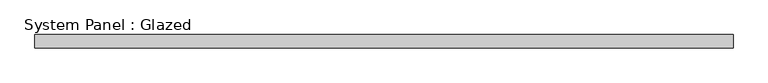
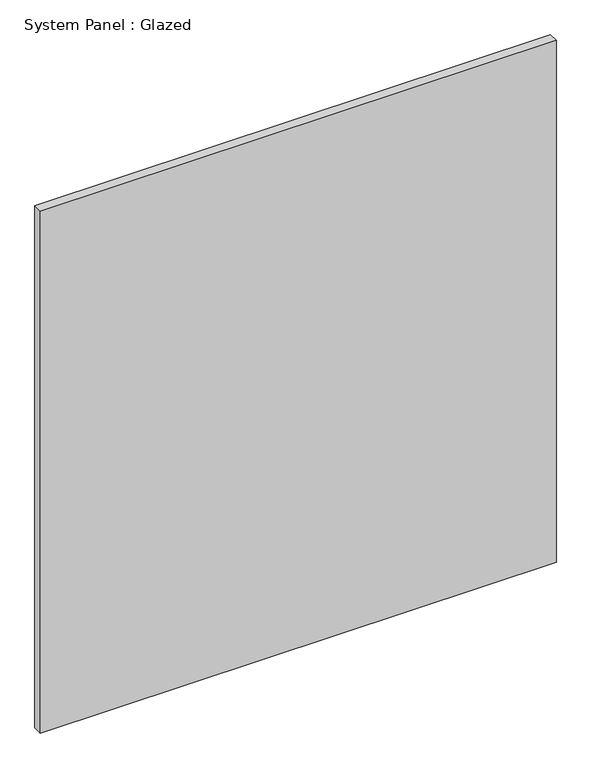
"""IFC4 building model written with IfcOpenShell, lengths in millimetres: plate geometry, System Panel : Glazed."""

from ifc_helpers import new_model, si_unit, origin, origin_with_axes, place, context, project, spatial, polyline, outline, extrude, source, transform, mapped, element, save


def system_panel_glazed_5906122b(model_context):
    return source(origin(), model_context, "Body", "SweptSolid", [
        extrude(outline(polyline([(666.1827248, 24.5), (-666.1827248, 24.5), (-666.1827248, 49.5), (666.1827248, 49.5), (666.1827248, 24.5)])), origin_with_axes(), (0.0, 0.0, 1.0), 1424.0),
    ])


if __name__ == "__main__":
    model = new_model("IFC4")
    model_context = context("Model", 3, world=origin())
    ifc_project = project(units=[si_unit("LENGTHUNIT", "METRE", prefix="MILLI")], contexts=[model_context])
    site = spatial("IfcSite", under=ifc_project)
    building = spatial("IfcBuilding", under=site)
    placement = place(None, origin())
    system_panel_glazed_shape = system_panel_glazed_5906122b(model_context)
    element("IfcPlate", 1, ObjectType="System Panel : Glazed", at=placement, inside=building, context=model_context, shape_type="MappedRepresentation", body=[
        mapped(system_panel_glazed_shape, transform((0.0, 0.0, 0.0), x_axis=(1.0, 0.0, 0.0), y_axis=(0.0, 1.0, 0.0), z_axis=(0.0, 0.0, 1.0))),
    ])
    save(model, "model.ifc")
